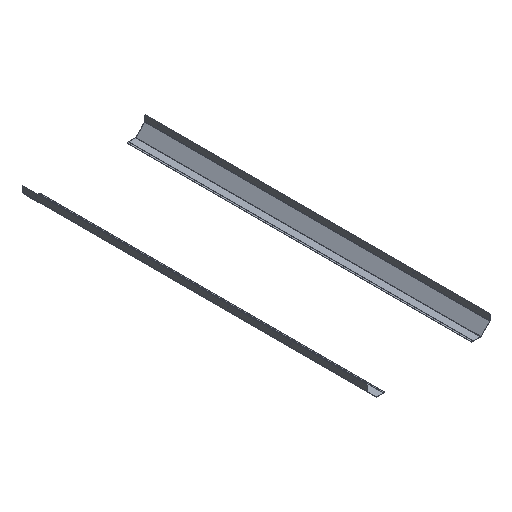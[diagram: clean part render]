
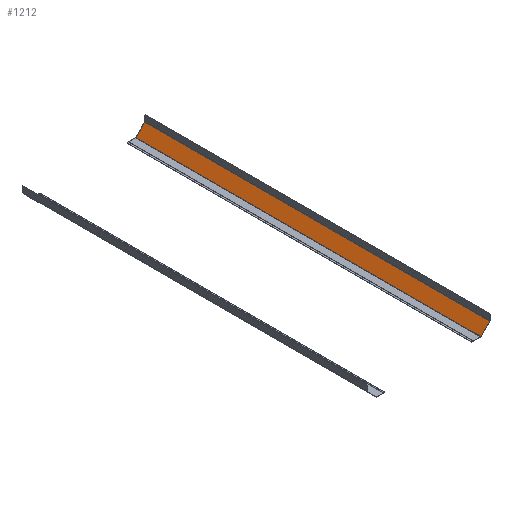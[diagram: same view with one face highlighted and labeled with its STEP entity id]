
A CAD part, isometric view. The second image highlights one B-rep face of the part: STEP entity #1212.
In plain terms, the highlighted planar face has unit normal (-0.714, 0, 0.7) as drawn and (0.714, 0, -0.7) by its records, which use the part's own axes.
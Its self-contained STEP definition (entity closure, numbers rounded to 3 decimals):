
#59 = LINE ( 'NONE', #774, #325 ) ;
#104 = VECTOR ( 'NONE', #576, 1000. ) ;
#144 = EDGE_CURVE ( 'NONE', #843, #1283, #543, .T. ) ;
#204 = CARTESIAN_POINT ( 'NONE',  ( 51.151, 964.5, 85.44 ) ) ;
#325 = VECTOR ( 'NONE', #897, 1000. ) ;
#419 = CARTESIAN_POINT ( 'NONE',  ( 1.543, -964.5, 34.86 ) ) ;
#437 = EDGE_CURVE ( 'NONE', #1243, #843, #59, .T. ) ;
#503 = AXIS2_PLACEMENT_3D ( 'NONE', #635, #534, #1368 ) ;
#507 = VECTOR ( 'NONE', #813, 1000. ) ;
#523 = CARTESIAN_POINT ( 'NONE',  ( 51.151, -964.5, 85.44 ) ) ;
#534 = DIRECTION ( 'NONE',  ( -0.714, 0., 0.7 ) ) ;
#543 = LINE ( 'NONE', #1316, #104 ) ;
#576 = DIRECTION ( 'NONE',  ( 0., -1., 0. ) ) ;
#599 = EDGE_CURVE ( 'NONE', #1173, #1283, #1053, .T. ) ;
#609 = EDGE_CURVE ( 'NONE', #1243, #1173, #1143, .T. ) ;
#635 = CARTESIAN_POINT ( 'NONE',  ( 51.857, 964.5, 86.16 ) ) ;
#721 = EDGE_LOOP ( 'NONE', ( #1326, #1260, #1001, #1187 ) ) ;
#774 = CARTESIAN_POINT ( 'NONE',  ( 51.857, 964.5, 86.16 ) ) ;
#813 = DIRECTION ( 'NONE',  ( -0.7, 0., -0.714 ) ) ;
#843 = VERTEX_POINT ( 'NONE', #1552 ) ;
#884 = CARTESIAN_POINT ( 'NONE',  ( 51.151, 964.5, 85.44 ) ) ;
#897 = DIRECTION ( 'NONE',  ( -0.7, 0., -0.714 ) ) ;
#1001 = ORIENTED_EDGE ( 'NONE', *, *, #437, .F. ) ;
#1039 = DIRECTION ( 'NONE',  ( 0., -1., 0. ) ) ;
#1053 = LINE ( 'NONE', #1528, #507 ) ;
#1069 = FACE_OUTER_BOUND ( 'NONE', #721, .T. ) ;
#1143 = LINE ( 'NONE', #204, #1357 ) ;
#1173 = VERTEX_POINT ( 'NONE', #523 ) ;
#1187 = ORIENTED_EDGE ( 'NONE', *, *, #609, .T. ) ;
#1212 = ADVANCED_FACE ( 'NONE', ( #1069 ), #1255, .F. ) ;
#1243 = VERTEX_POINT ( 'NONE', #884 ) ;
#1255 = PLANE ( 'NONE',  #503 ) ;
#1260 = ORIENTED_EDGE ( 'NONE', *, *, #144, .F. ) ;
#1283 = VERTEX_POINT ( 'NONE', #419 ) ;
#1316 = CARTESIAN_POINT ( 'NONE',  ( 1.543, 964.5, 34.86 ) ) ;
#1326 = ORIENTED_EDGE ( 'NONE', *, *, #599, .T. ) ;
#1357 = VECTOR ( 'NONE', #1039, 1000. ) ;
#1368 = DIRECTION ( 'NONE',  ( 0.7, 0., 0.714 ) ) ;
#1528 = CARTESIAN_POINT ( 'NONE',  ( 51.857, -964.5, 86.16 ) ) ;
#1552 = CARTESIAN_POINT ( 'NONE',  ( 1.543, 964.5, 34.86 ) ) ;
